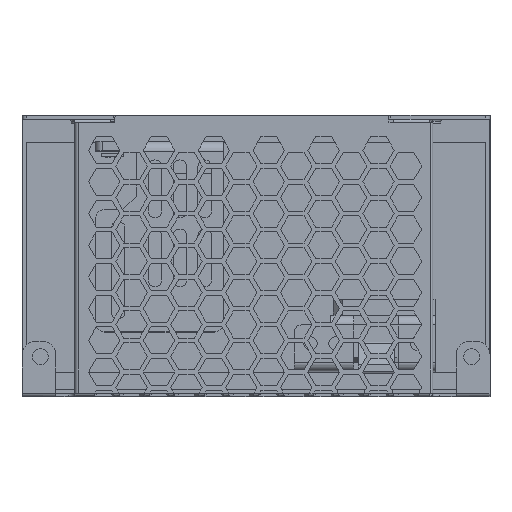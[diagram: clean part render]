
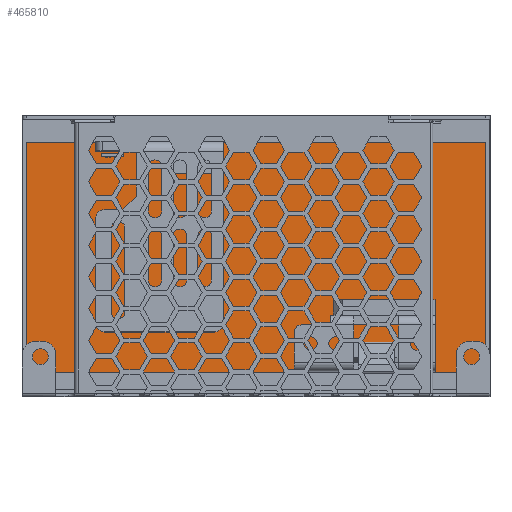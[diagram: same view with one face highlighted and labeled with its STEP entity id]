
A CAD part, top view. The second image highlights one B-rep face of the part: STEP entity #465810.
In plain terms, the highlighted planar face has unit normal (0, 0, 1).
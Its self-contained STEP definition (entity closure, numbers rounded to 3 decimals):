
#465420=CARTESIAN_POINT('',(0.,0.,0.));
#465430=DIRECTION('',(0.,0.,1.));
#465440=DIRECTION('',(1.,0.,0.));
#465450=AXIS2_PLACEMENT_3D('',#465420,#465430,#465440);
#465460=PLANE('',#465450);
#465470=CARTESIAN_POINT('',(175.25,170.,0.));
#465480=DIRECTION('',(1.,0.,0.));
#465490=VECTOR('',#465480,1.);
#465500=LINE('',#465470,#465490);
#465510=CARTESIAN_POINT('',(175.25,170.,0.));
#465520=VERTEX_POINT('',#465510);
#465530=CARTESIAN_POINT('',(276.85,170.,0.));
#465540=VERTEX_POINT('',#465530);
#465550=EDGE_CURVE('',#465520,#465540,#465500,.T.);
#465560=ORIENTED_EDGE('',*,*,#465550,.T.);
#465570=CARTESIAN_POINT('',(175.25,220.8,0.));
#465580=DIRECTION('',(0.,-1.,0.));
#465590=VECTOR('',#465580,1.);
#465600=LINE('',#465570,#465590);
#465610=CARTESIAN_POINT('',(175.25,220.8,0.));
#465620=VERTEX_POINT('',#465610);
#465630=EDGE_CURVE('',#465620,#465520,#465600,.T.);
#465640=ORIENTED_EDGE('',*,*,#465630,.T.);
#465650=CARTESIAN_POINT('',(276.85,220.8,0.));
#465660=DIRECTION('',(-1.,0.,0.));
#465670=VECTOR('',#465660,1.);
#465680=LINE('',#465650,#465670);
#465690=CARTESIAN_POINT('',(276.85,220.8,0.));
#465700=VERTEX_POINT('',#465690);
#465710=EDGE_CURVE('',#465700,#465620,#465680,.T.);
#465720=ORIENTED_EDGE('',*,*,#465710,.T.);
#465730=CARTESIAN_POINT('',(276.85,170.,0.));
#465740=DIRECTION('',(0.,1.,0.));
#465750=VECTOR('',#465740,1.);
#465760=LINE('',#465730,#465750);
#465770=EDGE_CURVE('',#465540,#465700,#465760,.T.);
#465780=ORIENTED_EDGE('',*,*,#465770,.T.);
#465790=EDGE_LOOP('',(#465780,#465720,#465640,#465560));
#465800=FACE_OUTER_BOUND('',#465790,.T.);
#465810=ADVANCED_FACE('',(#465800),#465460,.T.);
